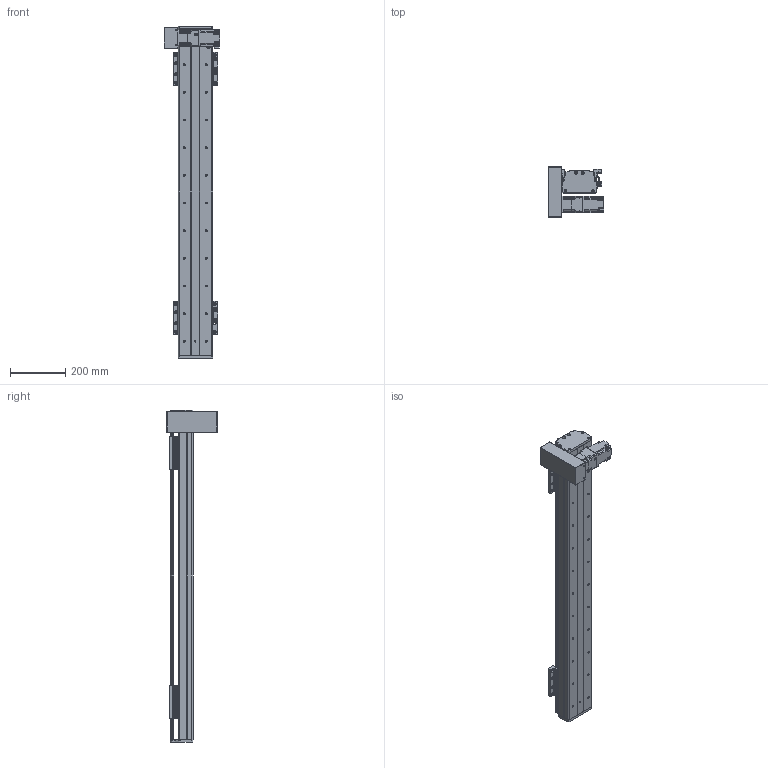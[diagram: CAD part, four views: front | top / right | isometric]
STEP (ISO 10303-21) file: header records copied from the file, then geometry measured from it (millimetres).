
FILE_DESCRIPTION(/* description */ (''),/* implementation_level */ '2;1');
FILE_NAME(/* name */ 'C:\Users\PC\Desktop\3D도면\STEP\DSB125-DL2G-W0900-R.stp',/* time_stamp */ '2018-06-21T14:50:07+09:00',/* author */ ('PC'),/* organization */ (''),/* preprocessor_version */ 'ST-DEVELOPER v16.5',/* originating_system */ 'Autodesk Inventor 2017',/* authorisation */ '');
FILE_SCHEMA (('AUTOMOTIVE_DESIGN { 1 0 10303 214 3 1 1 }'));
Length unit declared in the file: millimetre
Products named in the file (12): DSB125-L-300ST; DSR125-BASE(S-TYPE); DSR125-REAR COVER-R01(170203); DSR125-REAR COVER-R01(170203)_1; DSR125-UP COVER-R01(170203); hg-kr23_; ab0601-p0401200402; 13-BELT COVER; DSR126-SENSOR DOG; pm-y65_step; SENSOR BRACKET(EE-SX674A); DSR125-TABLE(MSA15X)
Assembly tree (16 placements, depth 2):
  DSB125-L-300ST
    DSR125-BASE(S-TYPE)
    DSR125-REAR COVER-R01(170203)
    DSR125-REAR COVER-R01(170203)_1
    DSR125-UP COVER-R01(170203)
    hg-kr23_
    ab0601-p0401200402
    13-BELT COVER
    DSR126-SENSOR DOG
    pm-y65_step  x3
    SENSOR BRACKET(EE-SX674A)  x3
    DSR125-TABLE(MSA15X)  x2
Bounding box: 202.1 x 182 x 1200 mm (x, y, z)
Volume: 4538754.6 mm3; surface area: 1308778.1 mm2
Topology: 17 solids, 22 shells, 1669 faces, 4521 edges, 2982 vertices
Faces by surface type: plane 908, cylinder 635, cone 114, sphere 8, torus 4
Full cylindrical faces by diameter (mm): 2.459 x20, 3.242 x16, 3.5 x6, 4 x1, 4.134 x16, 4.2 x4, 4.3 x1, 4.5 x50, 4.917 x20, 5 x27, 5.3 x1, 5.5 x4, 5.6 x8, 5.8 x4, 5.9 x8, 6 x4, 6.6 x22, 6.647 x24, 7.5 x32, 8.5 x8, 8.7 x1, 11 x22, 14 x1, 16 x2, 17 x1, 20 x1, 47 x1, 50 x3
Entity records: 35510 total; most frequent: CARTESIAN_POINT 6523, DIRECTION 6156, ORIENTED_EDGE 5494, EDGE_CURVE 2752, AXIS2_PLACEMENT_3D 2266, VERTEX_POINT 1961, EDGE_LOOP 1689, LINE 1624
